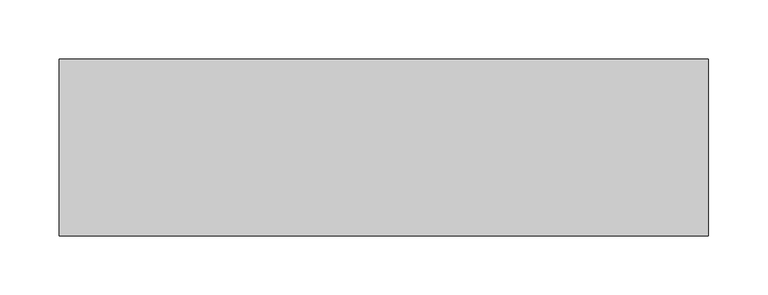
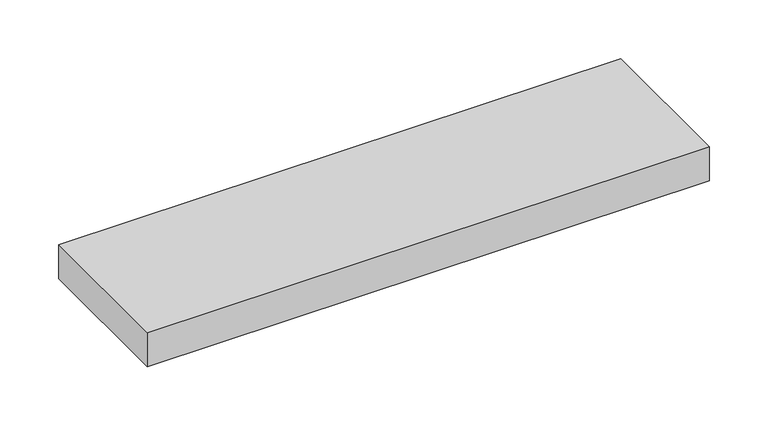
"""IFC4 building model written with IfcOpenShell, lengths in millimetres: furniture geometry, Pixel_Multiple : Pixel_Multiple."""

from ifc_helpers import new_model, si_unit, origin, origin_with_axes, place, context, project, spatial, polyline, outline, extrude, source, transform, mapped, element, save


def furniture_848c3687(model_context):
    return source(origin(), model_context, "Body", "SweptSolid", [
        extrude(outline(polyline([(550.0, 0.0), (0.0, 0.0), (0.0, 150.0), (550.0, 150.0), (550.0, 0.0)])), origin_with_axes(), (0.0, 0.0, 1.0), 35.0),
    ])


if __name__ == "__main__":
    model = new_model("IFC4")
    model_context = context("Model", 3, world=origin())
    ifc_project = project(units=[si_unit("LENGTHUNIT", "METRE", prefix="MILLI")], contexts=[model_context])
    site = spatial("IfcSite", under=ifc_project)
    building = spatial("IfcBuilding", under=site)
    placement = place(None, origin())
    furniture_shape = furniture_848c3687(model_context)
    element("IfcFurniture", 1, ObjectType="Pixel_Multiple : Pixel_Multiple", at=placement, inside=building, context=model_context, shape_type="MappedRepresentation", body=[
        mapped(furniture_shape, transform((0.0, 0.0, 0.0), x_axis=(1.0, 0.0, 0.0), y_axis=(0.0, 1.0, 0.0), z_axis=(0.0, 0.0, 1.0))),
    ])
    save(model, "model.ifc")
